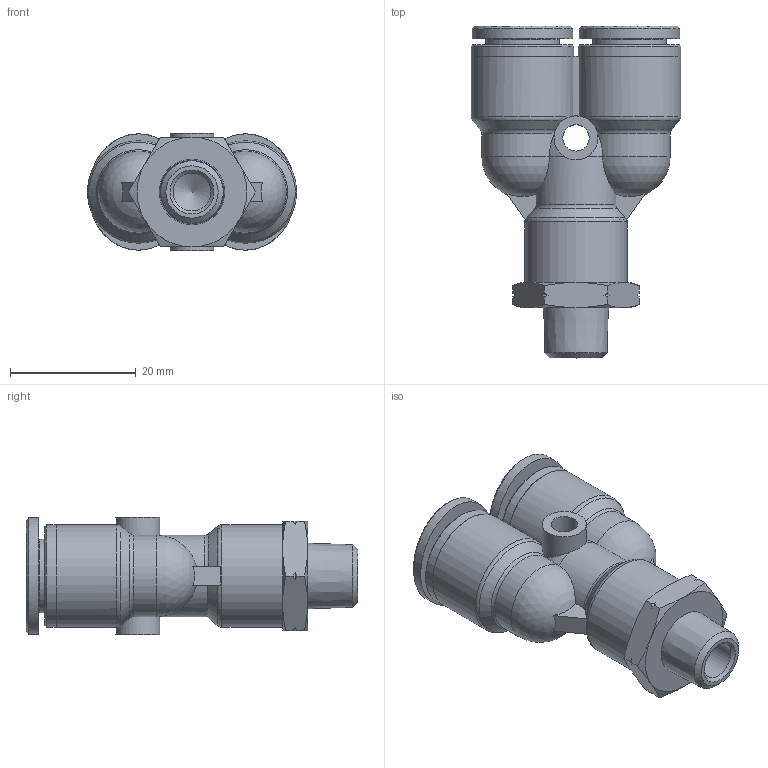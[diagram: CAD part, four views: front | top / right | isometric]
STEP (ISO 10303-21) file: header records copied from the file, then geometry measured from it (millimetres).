
FILE_DESCRIPTION((''),'2;1');
FILE_NAME('C:\Users\user0117\Desktop\김진일\G-FITTING INCH\3-8\G-FITTING INCH (STEP)\GPWT 3-8 N01U.stp','2020-04-22T13:29:53',('user0117'),(''),'Autodesk Inventor 2013','Autodesk Inventor 2013','');
FILE_SCHEMA(('AUTOMOTIVE_DESIGN { 1 0 10303 214 1 1 1 1 }'));
Length unit declared in the file: millimetre
Products named in the file (6): GPWT 3-8 N01U; GPY BODY 3-8(PLASTIC); G-COLLAR 3-8L; COLLAR G3-8L; SLEEVE G3-8; GPWT BODY 3-8 N01(BRASS)
Assembly tree (6 placements, depth 3):
  GPWT 3-8 N01U
    GPY BODY 3-8(PLASTIC)
    G-COLLAR 3-8L  x2
      COLLAR G3-8L
      SLEEVE G3-8
    GPWT BODY 3-8 N01(BRASS)
Bounding box: 33.3 x 52.8 x 18.7 mm (x, y, z)
Volume: 10748.8 mm3; surface area: 8496 mm2
Topology: 6 solids, 6 shells, 723 faces, 2018 edges, 1340 vertices
Faces by surface type: plane 567, bspline 74, cone 39, cylinder 31, torus 6, sphere 6
Full cylindrical faces by diameter (mm): 4.2 x1, 6 x1, 7 x2, 9.7 x1, 9.75 x7, 11.7 x2, 16.3 x3
Entity records: 13316 total; most frequent: CARTESIAN_POINT 3368, ORIENTED_EDGE 2170, DIRECTION 1758, EDGE_CURVE 1085, VECTOR 824, LINE 824, VERTEX_POINT 731, AXIS2_PLACEMENT_3D 467
